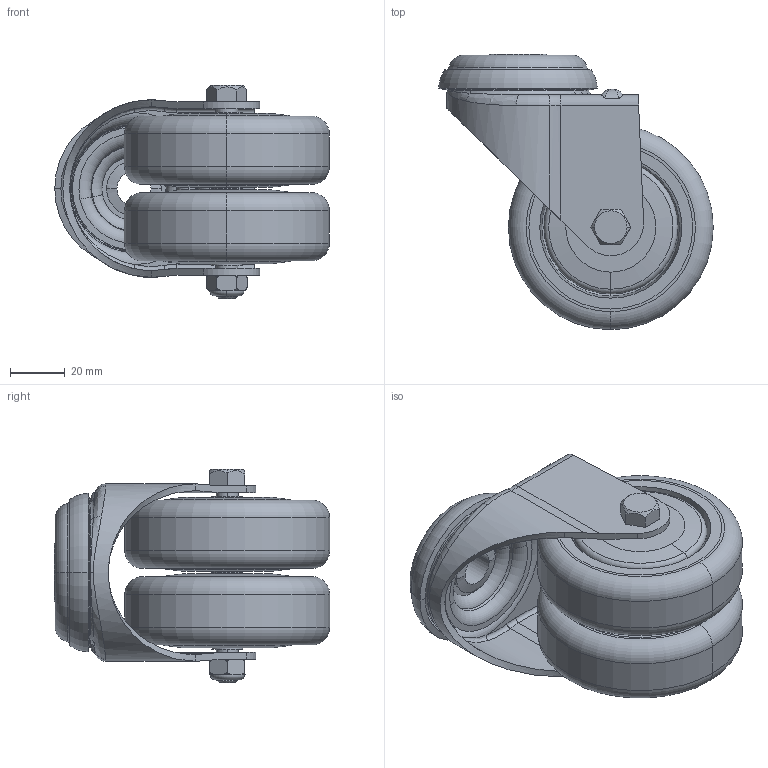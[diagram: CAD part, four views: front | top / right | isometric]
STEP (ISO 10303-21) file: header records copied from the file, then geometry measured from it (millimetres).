
FILE_DESCRIPTION((''),'2;1');
FILE_NAME('75_ASM','2022-08-26T',('Administrator'),('SKYSAN_ID TECH CO,'),'PRO/ENGINEER BY PARAMETRIC TECHNOLOGY CORPORATION, 2010020','PRO/ENGINEER BY PARAMETRIC TECHNOLOGY CORPORATION, 2010020','');
FILE_SCHEMA(('CONFIG_CONTROL_DESIGN'));
Length unit declared in the file: millimetre
Products named in the file (15): 75SLJZ__; BJ6__; 75SL-DBP__; 75SL-SBP__; BJ5__; M8X60LS__; M8LM__; KONG-DING; 75X25ZHOUCHENGNEIXIN__; 75X25TPRLUN__; PRT0006__; 75X25WAIQUAN__; 6000_; 75-4_ASM; 75_ASM
Assembly tree (15 placements, depth 3):
  75_ASM
    75SLJZ__
    BJ6__
    75SL-DBP__
    75SL-SBP__
    BJ5__
    M8X60LS__
    M8LM__
    KONG-DING
    75-4_ASM  x2
      75X25ZHOUCHENGNEIXIN__
      75X25TPRLUN__
      PRT0006__
      75X25WAIQUAN__
      6000_
Bounding box: 100.5 x 100.8 x 78 mm (x, y, z)
Volume: 190532.7 mm3; surface area: 132877.6 mm2
Topology: 83 solids, 83 shells, 891 faces, 2131 edges, 1234 vertices
Faces by surface type: cylinder 238, plane 210, cone 182, sphere 130, torus 94, bspline 37
Entity records: 22338 total; most frequent: CARTESIAN_POINT 9124, DIRECTION 2794, ORIENTED_EDGE 2530, EDGE_CURVE 1265, AXIS2_PLACEMENT_3D 1222, VERTEX_POINT 838, EDGE_LOOP 683, CIRCLE 615
